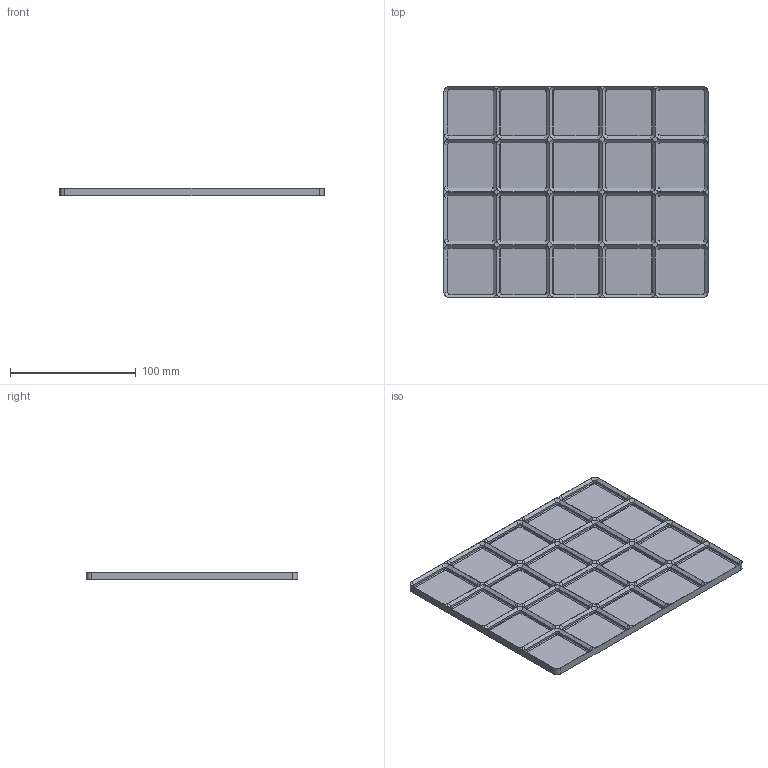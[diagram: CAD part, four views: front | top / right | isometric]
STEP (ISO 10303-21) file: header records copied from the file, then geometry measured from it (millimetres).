
FILE_DESCRIPTION(('Open CASCADE Model'),'2;1');
FILE_NAME('Open CASCADE Shape Model','2026-11-16T17:23:12',('Author'),( 'Open CASCADE'),'Open CASCADE STEP processor 8.0','build123d', 'Unknown');
FILE_SCHEMA(('AUTOMOTIVE_DESIGN { 1 0 10303 214 1 1 1 1 }'));
Length unit declared in the file: millimetre
Products named in the file (1): COMPOUND
Bounding box: 210 x 168 x 6 mm (x, y, z)
Volume: 73804.6 mm3; surface area: 84011.3 mm2
Topology: 1 solids, 1 shells, 670 faces, 1464 edges, 816 vertices
Faces by surface type: plane 346, cylinder 164, cone 160
Entity records: 35642 total; most frequent: CARTESIAN_POINT 7767, DIRECTION 4694, ORIENTED_EDGE 2928, PCURVE 2928, DEFINITIONAL_REPRESENTATION 2928, LINE 2456, VECTOR 2456, EDGE_CURVE 1464
